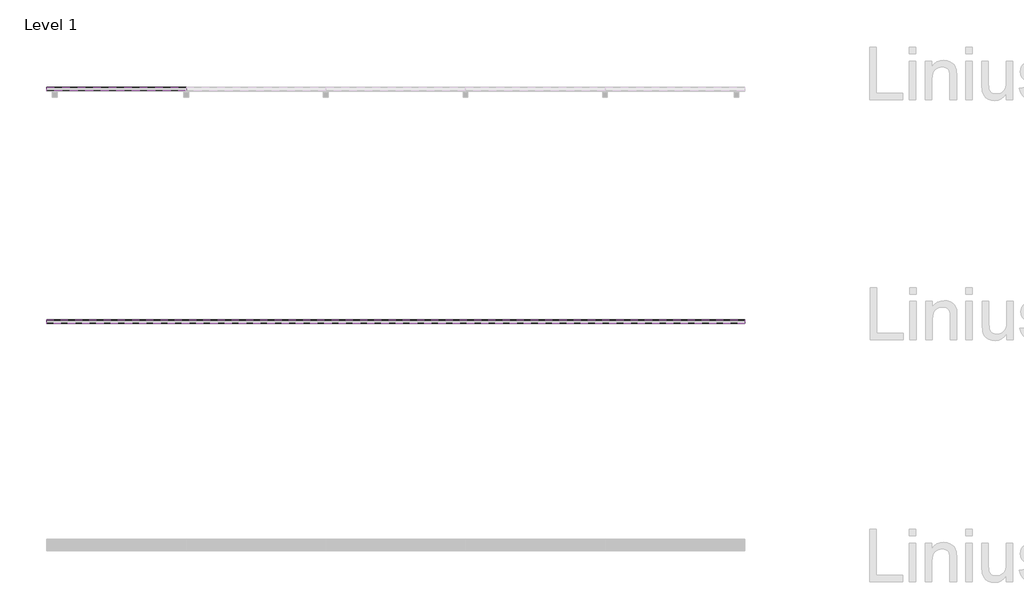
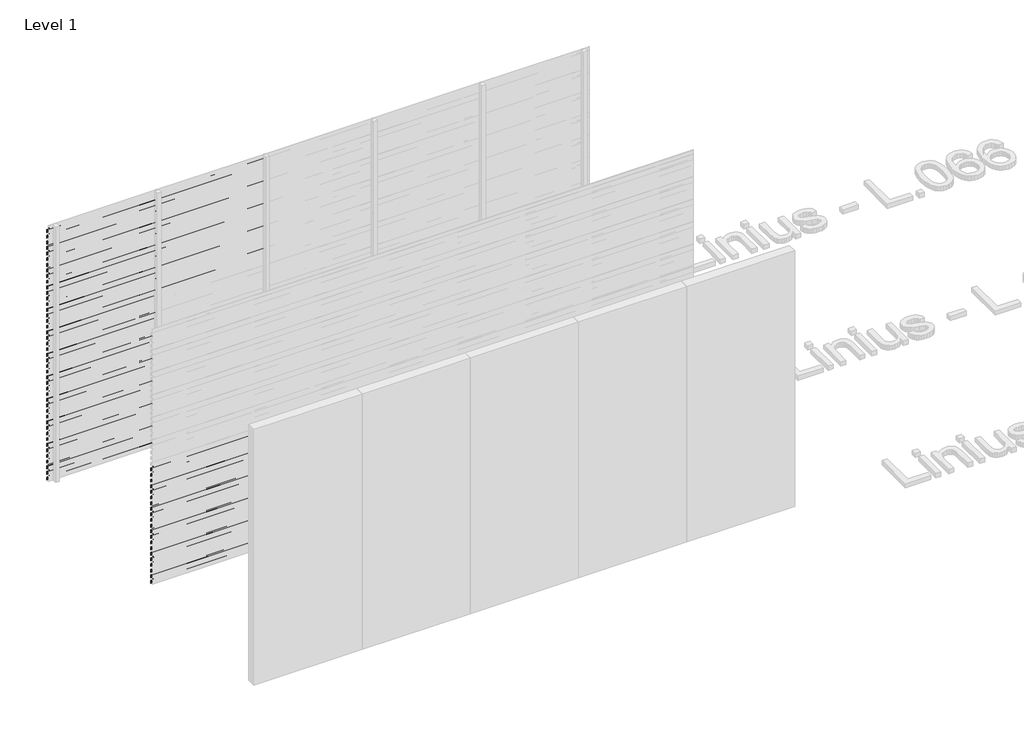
# One storey, part 92 of 540: 85 proxies.
"""IFC4 building model written with IfcOpenShell, lengths in millimetres."""

from ifc_helpers import new_model, si_unit, frame, origin, place, context, project, spatial, polyline, outline, extrude, element, save

model = new_model("IFC4")

# Units and contexts
model_context = context("Model", 3, world=origin())
ifc_project = project(units=[si_unit("LENGTHUNIT", "METRE", prefix="MILLI")], contexts=[model_context])

# Site, building, storey
site = spatial("IfcSite", under=ifc_project)
building = spatial("IfcBuilding", under=site)
storey = spatial("IfcBuildingStorey", under=building, Name="Level 1", Elevation=0.0)

# Proxies
placement = place(None, origin())
element("IfcBuildingElementProxy", 1, Name="Wall Sweeps", at=placement, inside=storey, context=model_context, shape_type="SweptSolid", body=[
    extrude(outline(polyline([(36543.8040136, 2930.0), (36543.8040136, 2897.0), (36542.5540136, 2897.7216933), (36542.5540136, 2929.2872415), (36512.8040136, 2950.0588647), (36512.8040136, 2970.0), (36514.0540136, 2970.0), (36514.0540136, 2950.7716232), (36543.8040136, 2930.0)])), frame((44966.6208097, 0.0, 0.0), z_axis=(1.0, 0.0, 0.0), x_axis=(0.0, 1.0, 0.0)), (0.0, 0.0, 1.0), 1200.0),
])
element("IfcBuildingElementProxy", 2, Name="Wall Sweeps", at=placement, inside=storey, context=model_context, shape_type="SweptSolid", body=[
    extrude(outline(polyline([(36543.8040136, 2864.0), (36543.8040136, 2831.0), (36542.5540136, 2831.7216933), (36542.5540136, 2863.2872415), (36512.8040136, 2884.0588647), (36512.8040136, 2904.0), (36514.0540136, 2904.0), (36514.0540136, 2884.7716232), (36543.8040136, 2864.0)])), frame((44966.6208097, 0.0, 0.0), z_axis=(1.0, 0.0, 0.0), x_axis=(0.0, 1.0, 0.0)), (0.0, 0.0, 1.0), 1200.0),
])
element("IfcBuildingElementProxy", 3, Name="Wall Sweeps", at=placement, inside=storey, context=model_context, shape_type="SweptSolid", body=[
    extrude(outline(polyline([(36543.8040136, 2798.0), (36543.8040136, 2765.0), (36542.5540136, 2765.7216933), (36542.5540136, 2797.2872415), (36512.8040136, 2818.0588647), (36512.8040136, 2838.0), (36514.0540136, 2838.0), (36514.0540136, 2818.7716232), (36543.8040136, 2798.0)])), frame((44966.6208097, 0.0, 0.0), z_axis=(1.0, 0.0, 0.0), x_axis=(0.0, 1.0, 0.0)), (0.0, 0.0, 1.0), 1200.0),
])
element("IfcBuildingElementProxy", 4, Name="Wall Sweeps", at=placement, inside=storey, context=model_context, shape_type="SweptSolid", body=[
    extrude(outline(polyline([(36543.8040136, 2732.0), (36543.8040136, 2699.0), (36542.5540136, 2699.7216933), (36542.5540136, 2731.2872415), (36512.8040136, 2752.0588647), (36512.8040136, 2772.0), (36514.0540136, 2772.0), (36514.0540136, 2752.7716232), (36543.8040136, 2732.0)])), frame((44966.6208097, 0.0, 0.0), z_axis=(1.0, 0.0, 0.0), x_axis=(0.0, 1.0, 0.0)), (0.0, 0.0, 1.0), 1200.0),
])
element("IfcBuildingElementProxy", 5, Name="Wall Sweeps", at=placement, inside=storey, context=model_context, shape_type="SweptSolid", body=[
    extrude(outline(polyline([(36543.8040136, 2666.0), (36543.8040136, 2633.0), (36542.5540136, 2633.7216933), (36542.5540136, 2665.2872415), (36512.8040136, 2686.0588647), (36512.8040136, 2706.0), (36514.0540136, 2706.0), (36514.0540136, 2686.7716232), (36543.8040136, 2666.0)])), frame((44966.6208097, 0.0, 0.0), z_axis=(1.0, 0.0, 0.0), x_axis=(0.0, 1.0, 0.0)), (0.0, 0.0, 1.0), 1200.0),
])
element("IfcBuildingElementProxy", 6, Name="Wall Sweeps", at=placement, inside=storey, context=model_context, shape_type="SweptSolid", body=[
    extrude(outline(polyline([(36543.8040136, 2600.0), (36543.8040136, 2567.0), (36542.5540136, 2567.7216933), (36542.5540136, 2599.2872415), (36512.8040136, 2620.0588647), (36512.8040136, 2640.0), (36514.0540136, 2640.0), (36514.0540136, 2620.7716232), (36543.8040136, 2600.0)])), frame((44966.6208097, 0.0, 0.0), z_axis=(1.0, 0.0, 0.0), x_axis=(0.0, 1.0, 0.0)), (0.0, 0.0, 1.0), 1200.0),
])
element("IfcBuildingElementProxy", 7, Name="Wall Sweeps", at=placement, inside=storey, context=model_context, shape_type="SweptSolid", body=[
    extrude(outline(polyline([(36543.8040136, 2534.0), (36543.8040136, 2501.0), (36542.5540136, 2501.7216933), (36542.5540136, 2533.2872415), (36512.8040136, 2554.0588647), (36512.8040136, 2574.0), (36514.0540136, 2574.0), (36514.0540136, 2554.7716232), (36543.8040136, 2534.0)])), frame((44966.6208097, 0.0, 0.0), z_axis=(1.0, 0.0, 0.0), x_axis=(0.0, 1.0, 0.0)), (0.0, 0.0, 1.0), 1200.0),
])
element("IfcBuildingElementProxy", 8, Name="Wall Sweeps", at=placement, inside=storey, context=model_context, shape_type="SweptSolid", body=[
    extrude(outline(polyline([(36543.8040136, 2468.0), (36543.8040136, 2435.0), (36542.5540136, 2435.7216933), (36542.5540136, 2467.2872415), (36512.8040136, 2488.0588647), (36512.8040136, 2508.0), (36514.0540136, 2508.0), (36514.0540136, 2488.7716232), (36543.8040136, 2468.0)])), frame((44966.6208097, 0.0, 0.0), z_axis=(1.0, 0.0, 0.0), x_axis=(0.0, 1.0, 0.0)), (0.0, 0.0, 1.0), 1200.0),
])
element("IfcBuildingElementProxy", 9, Name="Wall Sweeps", at=placement, inside=storey, context=model_context, shape_type="SweptSolid", body=[
    extrude(outline(polyline([(36543.8040136, 2402.0), (36543.8040136, 2369.0), (36542.5540136, 2369.7216933), (36542.5540136, 2401.2872415), (36512.8040136, 2422.0588647), (36512.8040136, 2442.0), (36514.0540136, 2442.0), (36514.0540136, 2422.7716232), (36543.8040136, 2402.0)])), frame((44966.6208097, 0.0, 0.0), z_axis=(1.0, 0.0, 0.0), x_axis=(0.0, 1.0, 0.0)), (0.0, 0.0, 1.0), 1200.0),
])
element("IfcBuildingElementProxy", 10, Name="Wall Sweeps", at=placement, inside=storey, context=model_context, shape_type="SweptSolid", body=[
    extrude(outline(polyline([(36543.8040136, 2336.0), (36543.8040136, 2303.0), (36542.5540136, 2303.7216933), (36542.5540136, 2335.2872415), (36512.8040136, 2356.0588647), (36512.8040136, 2376.0), (36514.0540136, 2376.0), (36514.0540136, 2356.7716232), (36543.8040136, 2336.0)])), frame((44966.6208097, 0.0, 0.0), z_axis=(1.0, 0.0, 0.0), x_axis=(0.0, 1.0, 0.0)), (0.0, 0.0, 1.0), 1200.0),
])
element("IfcBuildingElementProxy", 11, Name="Wall Sweeps", at=placement, inside=storey, context=model_context, shape_type="SweptSolid", body=[
    extrude(outline(polyline([(36543.8040136, 2270.0), (36543.8040136, 2237.0), (36542.5540136, 2237.7216933), (36542.5540136, 2269.2872415), (36512.8040136, 2290.0588647), (36512.8040136, 2310.0), (36514.0540136, 2310.0), (36514.0540136, 2290.7716232), (36543.8040136, 2270.0)])), frame((44966.6208097, 0.0, 0.0), z_axis=(1.0, 0.0, 0.0), x_axis=(0.0, 1.0, 0.0)), (0.0, 0.0, 1.0), 1200.0),
])
element("IfcBuildingElementProxy", 12, Name="Wall Sweeps", at=placement, inside=storey, context=model_context, shape_type="SweptSolid", body=[
    extrude(outline(polyline([(36543.8040136, 2204.0), (36543.8040136, 2171.0), (36542.5540136, 2171.7216933), (36542.5540136, 2203.2872415), (36512.8040136, 2224.0588647), (36512.8040136, 2244.0), (36514.0540136, 2244.0), (36514.0540136, 2224.7716232), (36543.8040136, 2204.0)])), frame((44966.6208097, 0.0, 0.0), z_axis=(1.0, 0.0, 0.0), x_axis=(0.0, 1.0, 0.0)), (0.0, 0.0, 1.0), 1200.0),
])
element("IfcBuildingElementProxy", 13, Name="Wall Sweeps", at=placement, inside=storey, context=model_context, shape_type="SweptSolid", body=[
    extrude(outline(polyline([(36543.8040136, 2138.0), (36543.8040136, 2105.0), (36542.5540136, 2105.7216933), (36542.5540136, 2137.2872415), (36512.8040136, 2158.0588647), (36512.8040136, 2178.0), (36514.0540136, 2178.0), (36514.0540136, 2158.7716232), (36543.8040136, 2138.0)])), frame((44966.6208097, 0.0, 0.0), z_axis=(1.0, 0.0, 0.0), x_axis=(0.0, 1.0, 0.0)), (0.0, 0.0, 1.0), 1200.0),
])
element("IfcBuildingElementProxy", 14, Name="Wall Sweeps", at=placement, inside=storey, context=model_context, shape_type="SweptSolid", body=[
    extrude(outline(polyline([(36543.8040136, 2072.0), (36543.8040136, 2039.0), (36542.5540136, 2039.7216933), (36542.5540136, 2071.2872415), (36512.8040136, 2092.0588647), (36512.8040136, 2112.0), (36514.0540136, 2112.0), (36514.0540136, 2092.7716232), (36543.8040136, 2072.0)])), frame((44966.6208097, 0.0, 0.0), z_axis=(1.0, 0.0, 0.0), x_axis=(0.0, 1.0, 0.0)), (0.0, 0.0, 1.0), 1200.0),
])
element("IfcBuildingElementProxy", 15, Name="Wall Sweeps", at=placement, inside=storey, context=model_context, shape_type="SweptSolid", body=[
    extrude(outline(polyline([(36543.8040136, 2006.0), (36543.8040136, 1973.0), (36542.5540136, 1973.7216933), (36542.5540136, 2005.2872415), (36512.8040136, 2026.0588647), (36512.8040136, 2046.0), (36514.0540136, 2046.0), (36514.0540136, 2026.7716232), (36543.8040136, 2006.0)])), frame((44966.6208097, 0.0, 0.0), z_axis=(1.0, 0.0, 0.0), x_axis=(0.0, 1.0, 0.0)), (0.0, 0.0, 1.0), 1200.0),
])
element("IfcBuildingElementProxy", 16, Name="Wall Sweeps", at=placement, inside=storey, context=model_context, shape_type="SweptSolid", body=[
    extrude(outline(polyline([(36543.8040136, 1940.0), (36543.8040136, 1907.0), (36542.5540136, 1907.7216933), (36542.5540136, 1939.2872415), (36512.8040136, 1960.0588647), (36512.8040136, 1980.0), (36514.0540136, 1980.0), (36514.0540136, 1960.7716232), (36543.8040136, 1940.0)])), frame((44966.6208097, 0.0, 0.0), z_axis=(1.0, 0.0, 0.0), x_axis=(0.0, 1.0, 0.0)), (0.0, 0.0, 1.0), 1200.0),
])
element("IfcBuildingElementProxy", 17, Name="Wall Sweeps", at=placement, inside=storey, context=model_context, shape_type="SweptSolid", body=[
    extrude(outline(polyline([(36543.8040136, 1874.0), (36543.8040136, 1841.0), (36542.5540136, 1841.7216933), (36542.5540136, 1873.2872415), (36512.8040136, 1894.0588647), (36512.8040136, 1914.0), (36514.0540136, 1914.0), (36514.0540136, 1894.7716232), (36543.8040136, 1874.0)])), frame((44966.6208097, 0.0, 0.0), z_axis=(1.0, 0.0, 0.0), x_axis=(0.0, 1.0, 0.0)), (0.0, 0.0, 1.0), 1200.0),
])
element("IfcBuildingElementProxy", 18, Name="Wall Sweeps", at=placement, inside=storey, context=model_context, shape_type="SweptSolid", body=[
    extrude(outline(polyline([(36543.8040136, 1808.0), (36543.8040136, 1775.0), (36542.5540136, 1775.7216933), (36542.5540136, 1807.2872415), (36512.8040136, 1828.0588647), (36512.8040136, 1848.0), (36514.0540136, 1848.0), (36514.0540136, 1828.7716232), (36543.8040136, 1808.0)])), frame((44966.6208097, 0.0, 0.0), z_axis=(1.0, 0.0, 0.0), x_axis=(0.0, 1.0, 0.0)), (0.0, 0.0, 1.0), 1200.0),
])
element("IfcBuildingElementProxy", 19, Name="Wall Sweeps", at=placement, inside=storey, context=model_context, shape_type="SweptSolid", body=[
    extrude(outline(polyline([(36543.8040136, 1742.0), (36543.8040136, 1709.0), (36542.5540136, 1709.7216933), (36542.5540136, 1741.2872415), (36512.8040136, 1762.0588647), (36512.8040136, 1782.0), (36514.0540136, 1782.0), (36514.0540136, 1762.7716232), (36543.8040136, 1742.0)])), frame((44966.6208097, 0.0, 0.0), z_axis=(1.0, 0.0, 0.0), x_axis=(0.0, 1.0, 0.0)), (0.0, 0.0, 1.0), 1200.0),
])
element("IfcBuildingElementProxy", 20, Name="Wall Sweeps", at=placement, inside=storey, context=model_context, shape_type="SweptSolid", body=[
    extrude(outline(polyline([(36543.8040136, 1676.0), (36543.8040136, 1643.0), (36542.5540136, 1643.7216933), (36542.5540136, 1675.2872415), (36512.8040136, 1696.0588647), (36512.8040136, 1716.0), (36514.0540136, 1716.0), (36514.0540136, 1696.7716232), (36543.8040136, 1676.0)])), frame((44966.6208097, 0.0, 0.0), z_axis=(1.0, 0.0, 0.0), x_axis=(0.0, 1.0, 0.0)), (0.0, 0.0, 1.0), 1200.0),
])
element("IfcBuildingElementProxy", 21, Name="Wall Sweeps", at=placement, inside=storey, context=model_context, shape_type="SweptSolid", body=[
    extrude(outline(polyline([(36543.8040136, 1610.0), (36543.8040136, 1577.0), (36542.5540136, 1577.7216933), (36542.5540136, 1609.2872415), (36512.8040136, 1630.0588647), (36512.8040136, 1650.0), (36514.0540136, 1650.0), (36514.0540136, 1630.7716232), (36543.8040136, 1610.0)])), frame((44966.6208097, 0.0, 0.0), z_axis=(1.0, 0.0, 0.0), x_axis=(0.0, 1.0, 0.0)), (0.0, 0.0, 1.0), 1200.0),
])
element("IfcBuildingElementProxy", 22, Name="Wall Sweeps", at=placement, inside=storey, context=model_context, shape_type="SweptSolid", body=[
    extrude(outline(polyline([(36543.8040136, 1544.0), (36543.8040136, 1511.0), (36542.5540136, 1511.7216933), (36542.5540136, 1543.2872415), (36512.8040136, 1564.0588647), (36512.8040136, 1584.0), (36514.0540136, 1584.0), (36514.0540136, 1564.7716232), (36543.8040136, 1544.0)])), frame((44966.6208097, 0.0, 0.0), z_axis=(1.0, 0.0, 0.0), x_axis=(0.0, 1.0, 0.0)), (0.0, 0.0, 1.0), 1200.0),
])
element("IfcBuildingElementProxy", 23, Name="Wall Sweeps", at=placement, inside=storey, context=model_context, shape_type="SweptSolid", body=[
    extrude(outline(polyline([(36543.8040136, 1478.0), (36543.8040136, 1445.0), (36542.5540136, 1445.7216933), (36542.5540136, 1477.2872415), (36512.8040136, 1498.0588647), (36512.8040136, 1518.0), (36514.0540136, 1518.0), (36514.0540136, 1498.7716232), (36543.8040136, 1478.0)])), frame((44966.6208097, 0.0, 0.0), z_axis=(1.0, 0.0, 0.0), x_axis=(0.0, 1.0, 0.0)), (0.0, 0.0, 1.0), 1200.0),
])
element("IfcBuildingElementProxy", 24, Name="Wall Sweeps", at=placement, inside=storey, context=model_context, shape_type="SweptSolid", body=[
    extrude(outline(polyline([(36543.8040136, 1412.0), (36543.8040136, 1379.0), (36542.5540136, 1379.7216933), (36542.5540136, 1411.2872415), (36512.8040136, 1432.0588647), (36512.8040136, 1452.0), (36514.0540136, 1452.0), (36514.0540136, 1432.7716232), (36543.8040136, 1412.0)])), frame((44966.6208097, 0.0, 0.0), z_axis=(1.0, 0.0, 0.0), x_axis=(0.0, 1.0, 0.0)), (0.0, 0.0, 1.0), 1200.0),
])
element("IfcBuildingElementProxy", 25, Name="Wall Sweeps", at=placement, inside=storey, context=model_context, shape_type="SweptSolid", body=[
    extrude(outline(polyline([(36543.8040136, 1346.0), (36543.8040136, 1313.0), (36542.5540136, 1313.7216933), (36542.5540136, 1345.2872415), (36512.8040136, 1366.0588647), (36512.8040136, 1386.0), (36514.0540136, 1386.0), (36514.0540136, 1366.7716232), (36543.8040136, 1346.0)])), frame((44966.6208097, 0.0, 0.0), z_axis=(1.0, 0.0, 0.0), x_axis=(0.0, 1.0, 0.0)), (0.0, 0.0, 1.0), 1200.0),
])
element("IfcBuildingElementProxy", 26, Name="Wall Sweeps", at=placement, inside=storey, context=model_context, shape_type="SweptSolid", body=[
    extrude(outline(polyline([(36543.8040136, 1280.0), (36543.8040136, 1247.0), (36542.5540136, 1247.7216933), (36542.5540136, 1279.2872415), (36512.8040136, 1300.0588647), (36512.8040136, 1320.0), (36514.0540136, 1320.0), (36514.0540136, 1300.7716232), (36543.8040136, 1280.0)])), frame((44966.6208097, 0.0, 0.0), z_axis=(1.0, 0.0, 0.0), x_axis=(0.0, 1.0, 0.0)), (0.0, 0.0, 1.0), 1200.0),
])
element("IfcBuildingElementProxy", 27, Name="Wall Sweeps", at=placement, inside=storey, context=model_context, shape_type="SweptSolid", body=[
    extrude(outline(polyline([(36543.8040136, 1214.0), (36543.8040136, 1181.0), (36542.5540136, 1181.7216933), (36542.5540136, 1213.2872415), (36512.8040136, 1234.0588647), (36512.8040136, 1254.0), (36514.0540136, 1254.0), (36514.0540136, 1234.7716232), (36543.8040136, 1214.0)])), frame((44966.6208097, 0.0, 0.0), z_axis=(1.0, 0.0, 0.0), x_axis=(0.0, 1.0, 0.0)), (0.0, 0.0, 1.0), 1200.0),
])
element("IfcBuildingElementProxy", 28, Name="Wall Sweeps", at=placement, inside=storey, context=model_context, shape_type="SweptSolid", body=[
    extrude(outline(polyline([(36543.8040136, 1148.0), (36543.8040136, 1115.0), (36542.5540136, 1115.7216933), (36542.5540136, 1147.2872415), (36512.8040136, 1168.0588647), (36512.8040136, 1188.0), (36514.0540136, 1188.0), (36514.0540136, 1168.7716232), (36543.8040136, 1148.0)])), frame((44966.6208097, 0.0, 0.0), z_axis=(1.0, 0.0, 0.0), x_axis=(0.0, 1.0, 0.0)), (0.0, 0.0, 1.0), 1200.0),
])
element("IfcBuildingElementProxy", 29, Name="Wall Sweeps", at=placement, inside=storey, context=model_context, shape_type="SweptSolid", body=[
    extrude(outline(polyline([(36543.8040136, 1082.0), (36543.8040136, 1049.0), (36542.5540136, 1049.7216933), (36542.5540136, 1081.2872415), (36512.8040136, 1102.0588647), (36512.8040136, 1122.0), (36514.0540136, 1122.0), (36514.0540136, 1102.7716232), (36543.8040136, 1082.0)])), frame((44966.6208097, 0.0, 0.0), z_axis=(1.0, 0.0, 0.0), x_axis=(0.0, 1.0, 0.0)), (0.0, 0.0, 1.0), 1200.0),
])
element("IfcBuildingElementProxy", 30, Name="Wall Sweeps", at=placement, inside=storey, context=model_context, shape_type="SweptSolid", body=[
    extrude(outline(polyline([(36543.8040136, 1016.0), (36543.8040136, 983.0), (36542.5540136, 983.7216933), (36542.5540136, 1015.2872415), (36512.8040136, 1036.0588647), (36512.8040136, 1056.0), (36514.0540136, 1056.0), (36514.0540136, 1036.7716232), (36543.8040136, 1016.0)])), frame((44966.6208097, 0.0, 0.0), z_axis=(1.0, 0.0, 0.0), x_axis=(0.0, 1.0, 0.0)), (0.0, 0.0, 1.0), 1200.0),
])
element("IfcBuildingElementProxy", 31, Name="Wall Sweeps", at=placement, inside=storey, context=model_context, shape_type="SweptSolid", body=[
    extrude(outline(polyline([(36543.8040136, 950.0), (36543.8040136, 917.0), (36542.5540136, 917.7216933), (36542.5540136, 949.2872415), (36512.8040136, 970.0588647), (36512.8040136, 990.0), (36514.0540136, 990.0), (36514.0540136, 970.7716232), (36543.8040136, 950.0)])), frame((44966.6208097, 0.0, 0.0), z_axis=(1.0, 0.0, 0.0), x_axis=(0.0, 1.0, 0.0)), (0.0, 0.0, 1.0), 1200.0),
])
element("IfcBuildingElementProxy", 32, Name="Wall Sweeps", at=placement, inside=storey, context=model_context, shape_type="SweptSolid", body=[
    extrude(outline(polyline([(36543.8040136, 884.0), (36543.8040136, 851.0), (36542.5540136, 851.7216933), (36542.5540136, 883.2872415), (36512.8040136, 904.0588647), (36512.8040136, 924.0), (36514.0540136, 924.0), (36514.0540136, 904.7716232), (36543.8040136, 884.0)])), frame((44966.6208097, 0.0, 0.0), z_axis=(1.0, 0.0, 0.0), x_axis=(0.0, 1.0, 0.0)), (0.0, 0.0, 1.0), 1200.0),
])
element("IfcBuildingElementProxy", 33, Name="Wall Sweeps", at=placement, inside=storey, context=model_context, shape_type="SweptSolid", body=[
    extrude(outline(polyline([(36543.8040136, 818.0), (36543.8040136, 785.0), (36542.5540136, 785.7216933), (36542.5540136, 817.2872415), (36512.8040136, 838.0588647), (36512.8040136, 858.0), (36514.0540136, 858.0), (36514.0540136, 838.7716232), (36543.8040136, 818.0)])), frame((44966.6208097, 0.0, 0.0), z_axis=(1.0, 0.0, 0.0), x_axis=(0.0, 1.0, 0.0)), (0.0, 0.0, 1.0), 1200.0),
])
element("IfcBuildingElementProxy", 34, Name="Wall Sweeps", at=placement, inside=storey, context=model_context, shape_type="SweptSolid", body=[
    extrude(outline(polyline([(36543.8040136, 752.0), (36543.8040136, 719.0), (36542.5540136, 719.7216933), (36542.5540136, 751.2872415), (36512.8040136, 772.0588647), (36512.8040136, 792.0), (36514.0540136, 792.0), (36514.0540136, 772.7716232), (36543.8040136, 752.0)])), frame((44966.6208097, 0.0, 0.0), z_axis=(1.0, 0.0, 0.0), x_axis=(0.0, 1.0, 0.0)), (0.0, 0.0, 1.0), 1200.0),
])
element("IfcBuildingElementProxy", 35, Name="Wall Sweeps", at=placement, inside=storey, context=model_context, shape_type="SweptSolid", body=[
    extrude(outline(polyline([(36543.8040136, 686.0), (36543.8040136, 653.0), (36542.5540136, 653.7216933), (36542.5540136, 685.2872415), (36512.8040136, 706.0588647), (36512.8040136, 726.0), (36514.0540136, 726.0), (36514.0540136, 706.7716232), (36543.8040136, 686.0)])), frame((44966.6208097, 0.0, 0.0), z_axis=(1.0, 0.0, 0.0), x_axis=(0.0, 1.0, 0.0)), (0.0, 0.0, 1.0), 1200.0),
])
element("IfcBuildingElementProxy", 36, Name="Wall Sweeps", at=placement, inside=storey, context=model_context, shape_type="SweptSolid", body=[
    extrude(outline(polyline([(36543.8040136, 620.0), (36543.8040136, 587.0), (36542.5540136, 587.7216933), (36542.5540136, 619.2872415), (36512.8040136, 640.0588647), (36512.8040136, 660.0), (36514.0540136, 660.0), (36514.0540136, 640.7716232), (36543.8040136, 620.0)])), frame((44966.6208097, 0.0, 0.0), z_axis=(1.0, 0.0, 0.0), x_axis=(0.0, 1.0, 0.0)), (0.0, 0.0, 1.0), 1200.0),
])
element("IfcBuildingElementProxy", 37, Name="Wall Sweeps", at=placement, inside=storey, context=model_context, shape_type="SweptSolid", body=[
    extrude(outline(polyline([(36543.8040136, 554.0), (36543.8040136, 521.0), (36542.5540136, 521.7216933), (36542.5540136, 553.2872415), (36512.8040136, 574.0588647), (36512.8040136, 594.0), (36514.0540136, 594.0), (36514.0540136, 574.7716232), (36543.8040136, 554.0)])), frame((44966.6208097, 0.0, 0.0), z_axis=(1.0, 0.0, 0.0), x_axis=(0.0, 1.0, 0.0)), (0.0, 0.0, 1.0), 1200.0),
])
element("IfcBuildingElementProxy", 38, Name="Wall Sweeps", at=placement, inside=storey, context=model_context, shape_type="SweptSolid", body=[
    extrude(outline(polyline([(36543.8040136, 488.0), (36543.8040136, 455.0), (36542.5540136, 455.7216933), (36542.5540136, 487.2872415), (36512.8040136, 508.0588647), (36512.8040136, 528.0), (36514.0540136, 528.0), (36514.0540136, 508.7716232), (36543.8040136, 488.0)])), frame((44966.6208097, 0.0, 0.0), z_axis=(1.0, 0.0, 0.0), x_axis=(0.0, 1.0, 0.0)), (0.0, 0.0, 1.0), 1200.0),
])
element("IfcBuildingElementProxy", 39, Name="Wall Sweeps", at=placement, inside=storey, context=model_context, shape_type="SweptSolid", body=[
    extrude(outline(polyline([(36543.8040136, 422.0), (36543.8040136, 389.0), (36542.5540136, 389.7216933), (36542.5540136, 421.2872415), (36512.8040136, 442.0588647), (36512.8040136, 462.0), (36514.0540136, 462.0), (36514.0540136, 442.7716232), (36543.8040136, 422.0)])), frame((44966.6208097, 0.0, 0.0), z_axis=(1.0, 0.0, 0.0), x_axis=(0.0, 1.0, 0.0)), (0.0, 0.0, 1.0), 1200.0),
])
element("IfcBuildingElementProxy", 40, Name="Wall Sweeps", at=placement, inside=storey, context=model_context, shape_type="SweptSolid", body=[
    extrude(outline(polyline([(36543.8040136, 356.0), (36543.8040136, 323.0), (36542.5540136, 323.7216933), (36542.5540136, 355.2872415), (36512.8040136, 376.0588647), (36512.8040136, 396.0), (36514.0540136, 396.0), (36514.0540136, 376.7716232), (36543.8040136, 356.0)])), frame((44966.6208097, 0.0, 0.0), z_axis=(1.0, 0.0, 0.0), x_axis=(0.0, 1.0, 0.0)), (0.0, 0.0, 1.0), 1200.0),
])
element("IfcBuildingElementProxy", 41, Name="Wall Sweeps", at=placement, inside=storey, context=model_context, shape_type="SweptSolid", body=[
    extrude(outline(polyline([(36543.8040136, 290.0), (36543.8040136, 257.0), (36542.5540136, 257.7216933), (36542.5540136, 289.2872415), (36512.8040136, 310.0588647), (36512.8040136, 330.0), (36514.0540136, 330.0), (36514.0540136, 310.7716232), (36543.8040136, 290.0)])), frame((44966.6208097, 0.0, 0.0), z_axis=(1.0, 0.0, 0.0), x_axis=(0.0, 1.0, 0.0)), (0.0, 0.0, 1.0), 1200.0),
])
element("IfcBuildingElementProxy", 42, Name="Wall Sweeps", at=placement, inside=storey, context=model_context, shape_type="SweptSolid", body=[
    extrude(outline(polyline([(36543.8040136, 224.0), (36543.8040136, 191.0), (36542.5540136, 191.7216933), (36542.5540136, 223.2872415), (36512.8040136, 244.0588647), (36512.8040136, 264.0), (36514.0540136, 264.0), (36514.0540136, 244.7716232), (36543.8040136, 224.0)])), frame((44966.6208097, 0.0, 0.0), z_axis=(1.0, 0.0, 0.0), x_axis=(0.0, 1.0, 0.0)), (0.0, 0.0, 1.0), 1200.0),
])
element("IfcBuildingElementProxy", 43, Name="Wall Sweeps", at=placement, inside=storey, context=model_context, shape_type="SweptSolid", body=[
    extrude(outline(polyline([(36543.8040136, 158.0), (36543.8040136, 125.0), (36542.5540136, 125.7216933), (36542.5540136, 157.2872415), (36512.8040136, 178.0588647), (36512.8040136, 198.0), (36514.0540136, 198.0), (36514.0540136, 178.7716232), (36543.8040136, 158.0)])), frame((44966.6208097, 0.0, 0.0), z_axis=(1.0, 0.0, 0.0), x_axis=(0.0, 1.0, 0.0)), (0.0, 0.0, 1.0), 1200.0),
])
element("IfcBuildingElementProxy", 44, Name="Wall Sweeps", at=placement, inside=storey, context=model_context, shape_type="SweptSolid", body=[
    extrude(outline(polyline([(36543.8040136, 92.0), (36543.8040136, 59.0), (36542.5540136, 59.7216933), (36542.5540136, 91.2872415), (36512.8040136, 112.0588647), (36512.8040136, 132.0), (36514.0540136, 132.0), (36514.0540136, 112.7716232), (36543.8040136, 92.0)])), frame((44966.6208097, 0.0, 0.0), z_axis=(1.0, 0.0, 0.0), x_axis=(0.0, 1.0, 0.0)), (0.0, 0.0, 1.0), 1200.0),
])
element("IfcBuildingElementProxy", 45, Name="Wall Sweeps", at=placement, inside=storey, context=model_context, shape_type="SweptSolid", body=[
    extrude(outline(polyline([(36543.8040136, 26.0), (36543.8040136, -7.0), (36542.5540136, -6.2783067), (36542.5540136, 25.2872415), (36512.8040136, 46.0588647), (36512.8040136, 66.0), (36514.0540136, 66.0), (36514.0540136, 46.7716232), (36543.8040136, 26.0)])), frame((44966.6208097, 0.0, 0.0), z_axis=(1.0, 0.0, 0.0), x_axis=(0.0, 1.0, 0.0)), (0.0, 0.0, 1.0), 1200.0),
])
element("IfcBuildingElementProxy", 46, Name="Wall Sweeps", at=placement, inside=storey, context=model_context, shape_type="SweptSolid", body=[
    extrude(outline(polyline([(36543.8040136, 2930.0), (36543.8040136, 2897.0), (36542.5540136, 2897.7216933), (36542.5540136, 2929.2872415), (36512.8040136, 2950.0588647), (36512.8040136, 2970.0), (36514.0540136, 2970.0), (36514.0540136, 2950.7716232), (36543.8040136, 2930.0)])), frame((46166.6208097, 0.0, 0.0), z_axis=(1.0, 0.0, 0.0), x_axis=(0.0, 1.0, 0.0)), (0.0, 0.0, 1.0), 1200.0),
])
element("IfcBuildingElementProxy", 47, Name="Wall Sweeps", at=placement, inside=storey, context=model_context, shape_type="SweptSolid", body=[
    extrude(outline(polyline([(36543.8040136, 2864.0), (36543.8040136, 2831.0), (36542.5540136, 2831.7216933), (36542.5540136, 2863.2872415), (36512.8040136, 2884.0588647), (36512.8040136, 2904.0), (36514.0540136, 2904.0), (36514.0540136, 2884.7716232), (36543.8040136, 2864.0)])), frame((46166.6208097, 0.0, 0.0), z_axis=(1.0, 0.0, 0.0), x_axis=(0.0, 1.0, 0.0)), (0.0, 0.0, 1.0), 1200.0),
])
element("IfcBuildingElementProxy", 48, Name="Wall Sweeps", at=placement, inside=storey, context=model_context, shape_type="SweptSolid", body=[
    extrude(outline(polyline([(36543.8040136, 2798.0), (36543.8040136, 2765.0), (36542.5540136, 2765.7216933), (36542.5540136, 2797.2872415), (36512.8040136, 2818.0588647), (36512.8040136, 2838.0), (36514.0540136, 2838.0), (36514.0540136, 2818.7716232), (36543.8040136, 2798.0)])), frame((46166.6208097, 0.0, 0.0), z_axis=(1.0, 0.0, 0.0), x_axis=(0.0, 1.0, 0.0)), (0.0, 0.0, 1.0), 1200.0),
])
element("IfcBuildingElementProxy", 49, Name="Wall Sweeps", at=placement, inside=storey, context=model_context, shape_type="SweptSolid", body=[
    extrude(outline(polyline([(36543.8040136, 2732.0), (36543.8040136, 2699.0), (36542.5540136, 2699.7216933), (36542.5540136, 2731.2872415), (36512.8040136, 2752.0588647), (36512.8040136, 2772.0), (36514.0540136, 2772.0), (36514.0540136, 2752.7716232), (36543.8040136, 2732.0)])), frame((46166.6208097, 0.0, 0.0), z_axis=(1.0, 0.0, 0.0), x_axis=(0.0, 1.0, 0.0)), (0.0, 0.0, 1.0), 1200.0),
])
element("IfcBuildingElementProxy", 50, Name="Wall Sweeps", at=placement, inside=storey, context=model_context, shape_type="SweptSolid", body=[
    extrude(outline(polyline([(36543.8040136, 2666.0), (36543.8040136, 2633.0), (36542.5540136, 2633.7216933), (36542.5540136, 2665.2872415), (36512.8040136, 2686.0588647), (36512.8040136, 2706.0), (36514.0540136, 2706.0), (36514.0540136, 2686.7716232), (36543.8040136, 2666.0)])), frame((46166.6208097, 0.0, 0.0), z_axis=(1.0, 0.0, 0.0), x_axis=(0.0, 1.0, 0.0)), (0.0, 0.0, 1.0), 1200.0),
])
element("IfcBuildingElementProxy", 51, Name="Wall Sweeps", at=placement, inside=storey, context=model_context, shape_type="SweptSolid", body=[
    extrude(outline(polyline([(36543.8040136, 2600.0), (36543.8040136, 2567.0), (36542.5540136, 2567.7216933), (36542.5540136, 2599.2872415), (36512.8040136, 2620.0588647), (36512.8040136, 2640.0), (36514.0540136, 2640.0), (36514.0540136, 2620.7716232), (36543.8040136, 2600.0)])), frame((46166.6208097, 0.0, 0.0), z_axis=(1.0, 0.0, 0.0), x_axis=(0.0, 1.0, 0.0)), (0.0, 0.0, 1.0), 1200.0),
])
element("IfcBuildingElementProxy", 52, Name="Wall Sweeps", at=placement, inside=storey, context=model_context, shape_type="SweptSolid", body=[
    extrude(outline(polyline([(36543.8040136, 2534.0), (36543.8040136, 2501.0), (36542.5540136, 2501.7216933), (36542.5540136, 2533.2872415), (36512.8040136, 2554.0588647), (36512.8040136, 2574.0), (36514.0540136, 2574.0), (36514.0540136, 2554.7716232), (36543.8040136, 2534.0)])), frame((46166.6208097, 0.0, 0.0), z_axis=(1.0, 0.0, 0.0), x_axis=(0.0, 1.0, 0.0)), (0.0, 0.0, 1.0), 1200.0),
])
element("IfcBuildingElementProxy", 53, Name="Wall Sweeps", at=placement, inside=storey, context=model_context, shape_type="SweptSolid", body=[
    extrude(outline(polyline([(36543.8040136, 2468.0), (36543.8040136, 2435.0), (36542.5540136, 2435.7216933), (36542.5540136, 2467.2872415), (36512.8040136, 2488.0588647), (36512.8040136, 2508.0), (36514.0540136, 2508.0), (36514.0540136, 2488.7716232), (36543.8040136, 2468.0)])), frame((46166.6208097, 0.0, 0.0), z_axis=(1.0, 0.0, 0.0), x_axis=(0.0, 1.0, 0.0)), (0.0, 0.0, 1.0), 1200.0),
])
element("IfcBuildingElementProxy", 54, Name="Wall Sweeps", at=placement, inside=storey, context=model_context, shape_type="SweptSolid", body=[
    extrude(outline(polyline([(36543.8040136, 2402.0), (36543.8040136, 2369.0), (36542.5540136, 2369.7216933), (36542.5540136, 2401.2872415), (36512.8040136, 2422.0588647), (36512.8040136, 2442.0), (36514.0540136, 2442.0), (36514.0540136, 2422.7716232), (36543.8040136, 2402.0)])), frame((46166.6208097, 0.0, 0.0), z_axis=(1.0, 0.0, 0.0), x_axis=(0.0, 1.0, 0.0)), (0.0, 0.0, 1.0), 1200.0),
])
element("IfcBuildingElementProxy", 55, Name="Wall Sweeps", at=placement, inside=storey, context=model_context, shape_type="SweptSolid", body=[
    extrude(outline(polyline([(36543.8040136, 2336.0), (36543.8040136, 2303.0), (36542.5540136, 2303.7216933), (36542.5540136, 2335.2872415), (36512.8040136, 2356.0588647), (36512.8040136, 2376.0), (36514.0540136, 2376.0), (36514.0540136, 2356.7716232), (36543.8040136, 2336.0)])), frame((46166.6208097, 0.0, 0.0), z_axis=(1.0, 0.0, 0.0), x_axis=(0.0, 1.0, 0.0)), (0.0, 0.0, 1.0), 1200.0),
])
element("IfcBuildingElementProxy", 56, Name="Wall Sweeps", at=placement, inside=storey, context=model_context, shape_type="SweptSolid", body=[
    extrude(outline(polyline([(36543.8040136, 2270.0), (36543.8040136, 2237.0), (36542.5540136, 2237.7216933), (36542.5540136, 2269.2872415), (36512.8040136, 2290.0588647), (36512.8040136, 2310.0), (36514.0540136, 2310.0), (36514.0540136, 2290.7716232), (36543.8040136, 2270.0)])), frame((46166.6208097, 0.0, 0.0), z_axis=(1.0, 0.0, 0.0), x_axis=(0.0, 1.0, 0.0)), (0.0, 0.0, 1.0), 1200.0),
])
element("IfcBuildingElementProxy", 57, Name="Wall Sweeps", at=placement, inside=storey, context=model_context, shape_type="SweptSolid", body=[
    extrude(outline(polyline([(36543.8040136, 2204.0), (36543.8040136, 2171.0), (36542.5540136, 2171.7216933), (36542.5540136, 2203.2872415), (36512.8040136, 2224.0588647), (36512.8040136, 2244.0), (36514.0540136, 2244.0), (36514.0540136, 2224.7716232), (36543.8040136, 2204.0)])), frame((46166.6208097, 0.0, 0.0), z_axis=(1.0, 0.0, 0.0), x_axis=(0.0, 1.0, 0.0)), (0.0, 0.0, 1.0), 1200.0),
])
element("IfcBuildingElementProxy", 58, Name="Wall Sweeps", at=placement, inside=storey, context=model_context, shape_type="SweptSolid", body=[
    extrude(outline(polyline([(36543.8040136, 2138.0), (36543.8040136, 2105.0), (36542.5540136, 2105.7216933), (36542.5540136, 2137.2872415), (36512.8040136, 2158.0588647), (36512.8040136, 2178.0), (36514.0540136, 2178.0), (36514.0540136, 2158.7716232), (36543.8040136, 2138.0)])), frame((46166.6208097, 0.0, 0.0), z_axis=(1.0, 0.0, 0.0), x_axis=(0.0, 1.0, 0.0)), (0.0, 0.0, 1.0), 1200.0),
])
element("IfcBuildingElementProxy", 59, Name="Wall Sweeps", at=placement, inside=storey, context=model_context, shape_type="SweptSolid", body=[
    extrude(outline(polyline([(36543.8040136, 2072.0), (36543.8040136, 2039.0), (36542.5540136, 2039.7216933), (36542.5540136, 2071.2872415), (36512.8040136, 2092.0588647), (36512.8040136, 2112.0), (36514.0540136, 2112.0), (36514.0540136, 2092.7716232), (36543.8040136, 2072.0)])), frame((46166.6208097, 0.0, 0.0), z_axis=(1.0, 0.0, 0.0), x_axis=(0.0, 1.0, 0.0)), (0.0, 0.0, 1.0), 1200.0),
])
element("IfcBuildingElementProxy", 60, Name="Wall Sweeps", at=placement, inside=storey, context=model_context, shape_type="SweptSolid", body=[
    extrude(outline(polyline([(36543.8040136, 2006.0), (36543.8040136, 1973.0), (36542.5540136, 1973.7216933), (36542.5540136, 2005.2872415), (36512.8040136, 2026.0588647), (36512.8040136, 2046.0), (36514.0540136, 2046.0), (36514.0540136, 2026.7716232), (36543.8040136, 2006.0)])), frame((46166.6208097, 0.0, 0.0), z_axis=(1.0, 0.0, 0.0), x_axis=(0.0, 1.0, 0.0)), (0.0, 0.0, 1.0), 1200.0),
])
element("IfcBuildingElementProxy", 61, Name="Wall Sweeps", at=placement, inside=storey, context=model_context, shape_type="SweptSolid", body=[
    extrude(outline(polyline([(36543.8040136, 1940.0), (36543.8040136, 1907.0), (36542.5540136, 1907.7216933), (36542.5540136, 1939.2872415), (36512.8040136, 1960.0588647), (36512.8040136, 1980.0), (36514.0540136, 1980.0), (36514.0540136, 1960.7716232), (36543.8040136, 1940.0)])), frame((46166.6208097, 0.0, 0.0), z_axis=(1.0, 0.0, 0.0), x_axis=(0.0, 1.0, 0.0)), (0.0, 0.0, 1.0), 1200.0),
])
element("IfcBuildingElementProxy", 62, Name="Wall Sweeps", at=placement, inside=storey, context=model_context, shape_type="SweptSolid", body=[
    extrude(outline(polyline([(36543.8040136, 1874.0), (36543.8040136, 1841.0), (36542.5540136, 1841.7216933), (36542.5540136, 1873.2872415), (36512.8040136, 1894.0588647), (36512.8040136, 1914.0), (36514.0540136, 1914.0), (36514.0540136, 1894.7716232), (36543.8040136, 1874.0)])), frame((46166.6208097, 0.0, 0.0), z_axis=(1.0, 0.0, 0.0), x_axis=(0.0, 1.0, 0.0)), (0.0, 0.0, 1.0), 1200.0),
])
element("IfcBuildingElementProxy", 63, Name="Wall Sweeps", at=placement, inside=storey, context=model_context, shape_type="SweptSolid", body=[
    extrude(outline(polyline([(36543.8040136, 1808.0), (36543.8040136, 1775.0), (36542.5540136, 1775.7216933), (36542.5540136, 1807.2872415), (36512.8040136, 1828.0588647), (36512.8040136, 1848.0), (36514.0540136, 1848.0), (36514.0540136, 1828.7716232), (36543.8040136, 1808.0)])), frame((46166.6208097, 0.0, 0.0), z_axis=(1.0, 0.0, 0.0), x_axis=(0.0, 1.0, 0.0)), (0.0, 0.0, 1.0), 1200.0),
])
element("IfcBuildingElementProxy", 64, Name="Wall Sweeps", at=placement, inside=storey, context=model_context, shape_type="SweptSolid", body=[
    extrude(outline(polyline([(36543.8040136, 1742.0), (36543.8040136, 1709.0), (36542.5540136, 1709.7216933), (36542.5540136, 1741.2872415), (36512.8040136, 1762.0588647), (36512.8040136, 1782.0), (36514.0540136, 1782.0), (36514.0540136, 1762.7716232), (36543.8040136, 1742.0)])), frame((46166.6208097, 0.0, 0.0), z_axis=(1.0, 0.0, 0.0), x_axis=(0.0, 1.0, 0.0)), (0.0, 0.0, 1.0), 1200.0),
])
element("IfcBuildingElementProxy", 65, Name="Wall Sweeps", at=placement, inside=storey, context=model_context, shape_type="SweptSolid", body=[
    extrude(outline(polyline([(34543.8040136, 1346.0), (34543.8040136, 1313.0), (34542.5540136, 1313.7216933), (34542.5540136, 1345.2872415), (34512.8040136, 1366.0588647), (34512.8040136, 1386.0), (34514.0540136, 1386.0), (34514.0540136, 1366.7716232), (34543.8040136, 1346.0)])), frame((44966.6208097, 0.0, 0.0), z_axis=(1.0, 0.0, 0.0), x_axis=(0.0, 1.0, 0.0)), (0.0, 0.0, 1.0), 6000.0),
])
element("IfcBuildingElementProxy", 66, Name="Wall Sweeps", at=placement, inside=storey, context=model_context, shape_type="SweptSolid", body=[
    extrude(outline(polyline([(34543.8040136, 1280.0), (34543.8040136, 1247.0), (34542.5540136, 1247.7216933), (34542.5540136, 1279.2872415), (34512.8040136, 1300.0588647), (34512.8040136, 1320.0), (34514.0540136, 1320.0), (34514.0540136, 1300.7716232), (34543.8040136, 1280.0)])), frame((44966.6208097, 0.0, 0.0), z_axis=(1.0, 0.0, 0.0), x_axis=(0.0, 1.0, 0.0)), (0.0, 0.0, 1.0), 6000.0),
])
element("IfcBuildingElementProxy", 67, Name="Wall Sweeps", at=placement, inside=storey, context=model_context, shape_type="SweptSolid", body=[
    extrude(outline(polyline([(34543.8040136, 1214.0), (34543.8040136, 1181.0), (34542.5540136, 1181.7216933), (34542.5540136, 1213.2872415), (34512.8040136, 1234.0588647), (34512.8040136, 1254.0), (34514.0540136, 1254.0), (34514.0540136, 1234.7716232), (34543.8040136, 1214.0)])), frame((44966.6208097, 0.0, 0.0), z_axis=(1.0, 0.0, 0.0), x_axis=(0.0, 1.0, 0.0)), (0.0, 0.0, 1.0), 6000.0),
])
element("IfcBuildingElementProxy", 68, Name="Wall Sweeps", at=placement, inside=storey, context=model_context, shape_type="SweptSolid", body=[
    extrude(outline(polyline([(34543.8040136, 1148.0), (34543.8040136, 1115.0), (34542.5540136, 1115.7216933), (34542.5540136, 1147.2872415), (34512.8040136, 1168.0588647), (34512.8040136, 1188.0), (34514.0540136, 1188.0), (34514.0540136, 1168.7716232), (34543.8040136, 1148.0)])), frame((44966.6208097, 0.0, 0.0), z_axis=(1.0, 0.0, 0.0), x_axis=(0.0, 1.0, 0.0)), (0.0, 0.0, 1.0), 6000.0),
])
element("IfcBuildingElementProxy", 69, Name="Wall Sweeps", at=placement, inside=storey, context=model_context, shape_type="SweptSolid", body=[
    extrude(outline(polyline([(34543.8040136, 1082.0), (34543.8040136, 1049.0), (34542.5540136, 1049.7216933), (34542.5540136, 1081.2872415), (34512.8040136, 1102.0588647), (34512.8040136, 1122.0), (34514.0540136, 1122.0), (34514.0540136, 1102.7716232), (34543.8040136, 1082.0)])), frame((44966.6208097, 0.0, 0.0), z_axis=(1.0, 0.0, 0.0), x_axis=(0.0, 1.0, 0.0)), (0.0, 0.0, 1.0), 6000.0),
])
element("IfcBuildingElementProxy", 70, Name="Wall Sweeps", at=placement, inside=storey, context=model_context, shape_type="SweptSolid", body=[
    extrude(outline(polyline([(34543.8040136, 1016.0), (34543.8040136, 983.0), (34542.5540136, 983.7216933), (34542.5540136, 1015.2872415), (34512.8040136, 1036.0588647), (34512.8040136, 1056.0), (34514.0540136, 1056.0), (34514.0540136, 1036.7716232), (34543.8040136, 1016.0)])), frame((44966.6208097, 0.0, 0.0), z_axis=(1.0, 0.0, 0.0), x_axis=(0.0, 1.0, 0.0)), (0.0, 0.0, 1.0), 6000.0),
])
element("IfcBuildingElementProxy", 71, Name="Wall Sweeps", at=placement, inside=storey, context=model_context, shape_type="SweptSolid", body=[
    extrude(outline(polyline([(34543.8040136, 950.0), (34543.8040136, 917.0), (34542.5540136, 917.7216933), (34542.5540136, 949.2872415), (34512.8040136, 970.0588647), (34512.8040136, 990.0), (34514.0540136, 990.0), (34514.0540136, 970.7716232), (34543.8040136, 950.0)])), frame((44966.6208097, 0.0, 0.0), z_axis=(1.0, 0.0, 0.0), x_axis=(0.0, 1.0, 0.0)), (0.0, 0.0, 1.0), 6000.0),
])
element("IfcBuildingElementProxy", 72, Name="Wall Sweeps", at=placement, inside=storey, context=model_context, shape_type="SweptSolid", body=[
    extrude(outline(polyline([(34543.8040136, 884.0), (34543.8040136, 851.0), (34542.5540136, 851.7216933), (34542.5540136, 883.2872415), (34512.8040136, 904.0588647), (34512.8040136, 924.0), (34514.0540136, 924.0), (34514.0540136, 904.7716232), (34543.8040136, 884.0)])), frame((44966.6208097, 0.0, 0.0), z_axis=(1.0, 0.0, 0.0), x_axis=(0.0, 1.0, 0.0)), (0.0, 0.0, 1.0), 6000.0),
])
element("IfcBuildingElementProxy", 73, Name="Wall Sweeps", at=placement, inside=storey, context=model_context, shape_type="SweptSolid", body=[
    extrude(outline(polyline([(34543.8040136, 818.0), (34543.8040136, 785.0), (34542.5540136, 785.7216933), (34542.5540136, 817.2872415), (34512.8040136, 838.0588647), (34512.8040136, 858.0), (34514.0540136, 858.0), (34514.0540136, 838.7716232), (34543.8040136, 818.0)])), frame((44966.6208097, 0.0, 0.0), z_axis=(1.0, 0.0, 0.0), x_axis=(0.0, 1.0, 0.0)), (0.0, 0.0, 1.0), 6000.0),
])
element("IfcBuildingElementProxy", 74, Name="Wall Sweeps", at=placement, inside=storey, context=model_context, shape_type="SweptSolid", body=[
    extrude(outline(polyline([(34543.8040136, 752.0), (34543.8040136, 719.0), (34542.5540136, 719.7216933), (34542.5540136, 751.2872415), (34512.8040136, 772.0588647), (34512.8040136, 792.0), (34514.0540136, 792.0), (34514.0540136, 772.7716232), (34543.8040136, 752.0)])), frame((44966.6208097, 0.0, 0.0), z_axis=(1.0, 0.0, 0.0), x_axis=(0.0, 1.0, 0.0)), (0.0, 0.0, 1.0), 6000.0),
])
element("IfcBuildingElementProxy", 75, Name="Wall Sweeps", at=placement, inside=storey, context=model_context, shape_type="SweptSolid", body=[
    extrude(outline(polyline([(34543.8040136, 686.0), (34543.8040136, 653.0), (34542.5540136, 653.7216933), (34542.5540136, 685.2872415), (34512.8040136, 706.0588647), (34512.8040136, 726.0), (34514.0540136, 726.0), (34514.0540136, 706.7716232), (34543.8040136, 686.0)])), frame((44966.6208097, 0.0, 0.0), z_axis=(1.0, 0.0, 0.0), x_axis=(0.0, 1.0, 0.0)), (0.0, 0.0, 1.0), 6000.0),
])
element("IfcBuildingElementProxy", 76, Name="Wall Sweeps", at=placement, inside=storey, context=model_context, shape_type="SweptSolid", body=[
    extrude(outline(polyline([(34543.8040136, 620.0), (34543.8040136, 587.0), (34542.5540136, 587.7216933), (34542.5540136, 619.2872415), (34512.8040136, 640.0588647), (34512.8040136, 660.0), (34514.0540136, 660.0), (34514.0540136, 640.7716232), (34543.8040136, 620.0)])), frame((44966.6208097, 0.0, 0.0), z_axis=(1.0, 0.0, 0.0), x_axis=(0.0, 1.0, 0.0)), (0.0, 0.0, 1.0), 6000.0),
])
element("IfcBuildingElementProxy", 77, Name="Wall Sweeps", at=placement, inside=storey, context=model_context, shape_type="SweptSolid", body=[
    extrude(outline(polyline([(34543.8040136, 554.0), (34543.8040136, 521.0), (34542.5540136, 521.7216933), (34542.5540136, 553.2872415), (34512.8040136, 574.0588647), (34512.8040136, 594.0), (34514.0540136, 594.0), (34514.0540136, 574.7716232), (34543.8040136, 554.0)])), frame((44966.6208097, 0.0, 0.0), z_axis=(1.0, 0.0, 0.0), x_axis=(0.0, 1.0, 0.0)), (0.0, 0.0, 1.0), 6000.0),
])
element("IfcBuildingElementProxy", 78, Name="Wall Sweeps", at=placement, inside=storey, context=model_context, shape_type="SweptSolid", body=[
    extrude(outline(polyline([(34543.8040136, 488.0), (34543.8040136, 455.0), (34542.5540136, 455.7216933), (34542.5540136, 487.2872415), (34512.8040136, 508.0588647), (34512.8040136, 528.0), (34514.0540136, 528.0), (34514.0540136, 508.7716232), (34543.8040136, 488.0)])), frame((44966.6208097, 0.0, 0.0), z_axis=(1.0, 0.0, 0.0), x_axis=(0.0, 1.0, 0.0)), (0.0, 0.0, 1.0), 6000.0),
])
element("IfcBuildingElementProxy", 79, Name="Wall Sweeps", at=placement, inside=storey, context=model_context, shape_type="SweptSolid", body=[
    extrude(outline(polyline([(34543.8040136, 422.0), (34543.8040136, 389.0), (34542.5540136, 389.7216933), (34542.5540136, 421.2872415), (34512.8040136, 442.0588647), (34512.8040136, 462.0), (34514.0540136, 462.0), (34514.0540136, 442.7716232), (34543.8040136, 422.0)])), frame((44966.6208097, 0.0, 0.0), z_axis=(1.0, 0.0, 0.0), x_axis=(0.0, 1.0, 0.0)), (0.0, 0.0, 1.0), 6000.0),
])
element("IfcBuildingElementProxy", 80, Name="Wall Sweeps", at=placement, inside=storey, context=model_context, shape_type="SweptSolid", body=[
    extrude(outline(polyline([(34543.8040136, 356.0), (34543.8040136, 323.0), (34542.5540136, 323.7216933), (34542.5540136, 355.2872415), (34512.8040136, 376.0588647), (34512.8040136, 396.0), (34514.0540136, 396.0), (34514.0540136, 376.7716232), (34543.8040136, 356.0)])), frame((44966.6208097, 0.0, 0.0), z_axis=(1.0, 0.0, 0.0), x_axis=(0.0, 1.0, 0.0)), (0.0, 0.0, 1.0), 6000.0),
])
element("IfcBuildingElementProxy", 81, Name="Wall Sweeps", at=placement, inside=storey, context=model_context, shape_type="SweptSolid", body=[
    extrude(outline(polyline([(34543.8040136, 290.0), (34543.8040136, 257.0), (34542.5540136, 257.7216933), (34542.5540136, 289.2872415), (34512.8040136, 310.0588647), (34512.8040136, 330.0), (34514.0540136, 330.0), (34514.0540136, 310.7716232), (34543.8040136, 290.0)])), frame((44966.6208097, 0.0, 0.0), z_axis=(1.0, 0.0, 0.0), x_axis=(0.0, 1.0, 0.0)), (0.0, 0.0, 1.0), 6000.0),
])
element("IfcBuildingElementProxy", 82, Name="Wall Sweeps", at=placement, inside=storey, context=model_context, shape_type="SweptSolid", body=[
    extrude(outline(polyline([(34543.8040136, 224.0), (34543.8040136, 191.0), (34542.5540136, 191.7216933), (34542.5540136, 223.2872415), (34512.8040136, 244.0588647), (34512.8040136, 264.0), (34514.0540136, 264.0), (34514.0540136, 244.7716232), (34543.8040136, 224.0)])), frame((44966.6208097, 0.0, 0.0), z_axis=(1.0, 0.0, 0.0), x_axis=(0.0, 1.0, 0.0)), (0.0, 0.0, 1.0), 6000.0),
])
element("IfcBuildingElementProxy", 83, Name="Wall Sweeps", at=placement, inside=storey, context=model_context, shape_type="SweptSolid", body=[
    extrude(outline(polyline([(34543.8040136, 158.0), (34543.8040136, 125.0), (34542.5540136, 125.7216933), (34542.5540136, 157.2872415), (34512.8040136, 178.0588647), (34512.8040136, 198.0), (34514.0540136, 198.0), (34514.0540136, 178.7716232), (34543.8040136, 158.0)])), frame((44966.6208097, 0.0, 0.0), z_axis=(1.0, 0.0, 0.0), x_axis=(0.0, 1.0, 0.0)), (0.0, 0.0, 1.0), 6000.0),
])
element("IfcBuildingElementProxy", 84, Name="Wall Sweeps", at=placement, inside=storey, context=model_context, shape_type="SweptSolid", body=[
    extrude(outline(polyline([(34543.8040136, 92.0), (34543.8040136, 59.0), (34542.5540136, 59.7216933), (34542.5540136, 91.2872415), (34512.8040136, 112.0588647), (34512.8040136, 132.0), (34514.0540136, 132.0), (34514.0540136, 112.7716232), (34543.8040136, 92.0)])), frame((44966.6208097, 0.0, 0.0), z_axis=(1.0, 0.0, 0.0), x_axis=(0.0, 1.0, 0.0)), (0.0, 0.0, 1.0), 6000.0),
])
element("IfcBuildingElementProxy", 85, Name="Wall Sweeps", at=placement, inside=storey, context=model_context, shape_type="SweptSolid", body=[
    extrude(outline(polyline([(34543.8040136, 26.0), (34543.8040136, -7.0), (34542.5540136, -6.2783067), (34542.5540136, 25.2872415), (34512.8040136, 46.0588647), (34512.8040136, 66.0), (34514.0540136, 66.0), (34514.0540136, 46.7716232), (34543.8040136, 26.0)])), frame((44966.6208097, 0.0, 0.0), z_axis=(1.0, 0.0, 0.0), x_axis=(0.0, 1.0, 0.0)), (0.0, 0.0, 1.0), 6000.0),
])

save(model, "model.ifc")
